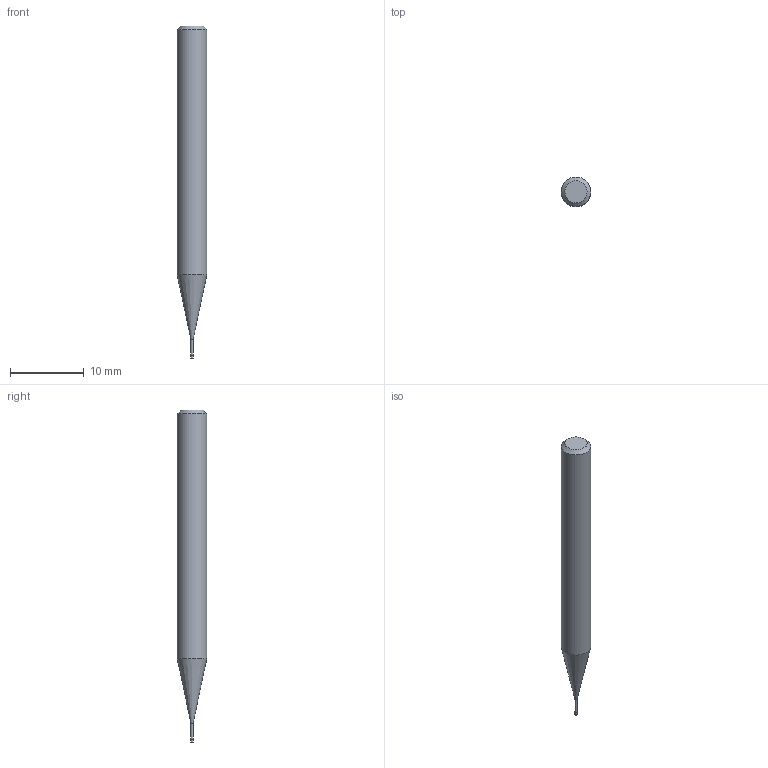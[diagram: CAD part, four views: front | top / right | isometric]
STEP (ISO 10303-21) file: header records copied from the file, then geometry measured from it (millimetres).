
FILE_DESCRIPTION((''),'2;1');
FILE_NAME('C:\Users\nsx150\AppData\Local\Temp\Mastercam 2021\17T8Q8S9EB\TEMP.step','2021-04-21T14:23:43',(''),(''),'STEP Write','Mastercam 2021 ... CNC Software, Inc.','');
FILE_SCHEMA(('AUTOMOTIVE_DESIGN'));
Length unit declared in the file: millimetre
Products named in the file (1): None
Bounding box: 4 x 4 x 45 mm (x, y, z)
Volume: 462.2 mm3; surface area: 495.2 mm2
Topology: 2 solids, 2 shells, 9 faces, 12 edges, 7 vertices
Faces by surface type: plane 4, cylinder 3, cone 2
Full cylindrical faces by diameter (mm): 0.28 x1, 0.3 x1, 4 x1
Entity records: 211 total; most frequent: DIRECTION 36, CARTESIAN_POINT 25, AXIS2_PLACEMENT_3D 18, ORIENTED_EDGE 14, EDGE_LOOP 14, STYLED_ITEM 12, ADVANCED_FACE 9, FACE_BOUND 8
